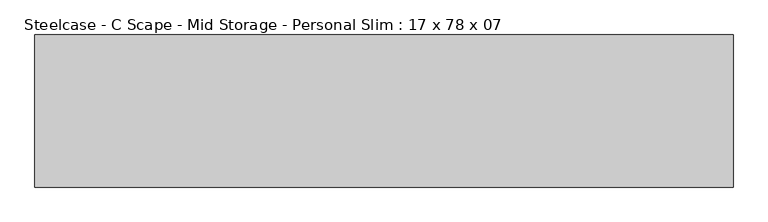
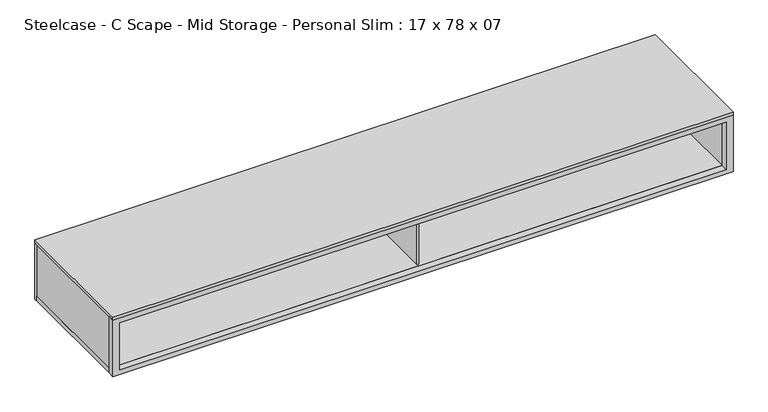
"""IFC4 building model written with IfcOpenShell, lengths in millimetres: furniture geometry, Steelcase - C Scape - Mid Storage - Personal Slim : 17 x 78 x 07."""

import ifcopenshell
import ifcopenshell.guid

model = None  # the IFC model being written
_history = None  # IfcOwnerHistory: only IFC2X3 demands one
_inside = {}  # id of a spatial element -> (the spatial element, [elements in it])
_under = {}  # id of a project, library or spatial element -> (it, [spatial elements below it])
_declared = {}  # id of a project -> (the project, [libraries it declares])
_typed = {}  # id of a type object -> (the type object, [elements of that type])
_made_of = {}  # id of a material, layer set ... -> (it, [elements and type objects made of it])


def new_model(schema):
    """Start an empty IFC model of exactly this schema.

    Asked for "IFC4X3", IfcOpenShell would pick the latest addendum, in which some entities
    have other attributes; the version numbers below select the first issue.
    IFC2X3 requires an IfcOwnerHistory on every rooted entity: one is made here for all.
    """
    global model, _history
    if schema == "IFC4X3":
        model = ifcopenshell.file(schema_version=(4, 3, 0, 0))
    else:
        model = ifcopenshell.file(schema=schema)
    _inside.clear()
    _under.clear()
    _declared.clear()
    _typed.clear()
    _made_of.clear()
    _history = None
    if model.schema == "IFC2X3":
        org = make("IfcOrganization", Name="unknown")
        user = make(
            "IfcPersonAndOrganization",
            ThePerson=make("IfcPerson", FamilyName="unknown"),
            TheOrganization=org,
        )
        app = make(
            "IfcApplication",
            ApplicationDeveloper=org,
            Version="unknown",
            ApplicationFullName="unknown",
            ApplicationIdentifier="unknown",
        )
        _history = make(
            "IfcOwnerHistory",
            OwningUser=user,
            OwningApplication=app,
            ChangeAction="ADDED",
            CreationDate=0,
        )
    return model


def make(cls, **values):
    """One entity of the class cls with the attributes given. An attribute that is None is left unset."""
    return model.create_entity(
        cls, **{name: value for name, value in values.items() if value is not None}
    )


def rooted(cls, **values):
    """An entity with a GlobalId (a new one), such as an element, a storey or a relation."""
    return make(cls, GlobalId=ifcopenshell.guid.new(), OwnerHistory=_history, **values)


def si_unit(unit_type, name, prefix=None):
    """IfcSIUnit, for example si_unit("LENGTHUNIT", "METRE", prefix="MILLI")."""
    return make("IfcSIUnit", UnitType=unit_type, Prefix=prefix, Name=name)


def assignment(units):
    """IfcUnitAssignment: the units of a project."""
    return None if units is None else make("IfcUnitAssignment", Units=units)


def point(xyz):
    """IfcCartesianPoint."""
    return None if xyz is None else make("IfcCartesianPoint", Coordinates=xyz)


def direction(xyz):
    """IfcDirection."""
    return None if xyz is None else make("IfcDirection", DirectionRatios=xyz)


def frame(location, z_axis=None, x_axis=None):
    """IfcAxis2Placement3D, a coordinate frame: its origin and axes. An axis left out is left unset."""
    return make(
        "IfcAxis2Placement3D",
        Location=point(location),
        Axis=direction(z_axis),
        RefDirection=direction(x_axis),
    )


def origin():
    """The frame at (0, 0, 0) with its axes left unset."""
    return frame((0.0, 0.0, 0.0))


def place(relative_to, where):
    """IfcLocalPlacement: puts the frame where relative to a parent placement (None: the world)."""
    return make(
        "IfcLocalPlacement", PlacementRelTo=relative_to, RelativePlacement=where
    )


def context(
    kind, dimensions, precision=None, world=None, true_north=None, identifier=None
):
    """IfcGeometricRepresentationContext, for example the 3D "Model" context."""
    return make(
        "IfcGeometricRepresentationContext",
        ContextIdentifier=identifier,
        ContextType=kind,
        CoordinateSpaceDimension=dimensions,
        Precision=precision,
        WorldCoordinateSystem=world,
        TrueNorth=true_north,
    )


def project(units=None, contexts=None):
    """IfcProject with its units and contexts."""
    return rooted(
        "IfcProject",
        Name="project",
        RepresentationContexts=contexts,
        UnitsInContext=assignment(units),
    )


def spatial(cls, under=None, at=None, **own):
    """A site, building, storey or space (cls), placed at a placement, below another one or the project."""
    s = rooted(cls, ObjectPlacement=at, **own)
    if under is not None:
        _under.setdefault(under.id(), (under, []))[1].append(s)
    return s


def polyline(points):
    """IfcPolyline through the points."""
    return make("IfcPolyline", Points=[point(p) for p in points])


def outline(outer, holes=None, kind="AREA"):
    """IfcArbitraryClosedProfileDef: a profile drawn as a closed curve; with holes, ...WithVoids."""
    if holes is None:
        return make("IfcArbitraryClosedProfileDef", ProfileType=kind, OuterCurve=outer)
    return make(
        "IfcArbitraryProfileDefWithVoids",
        ProfileType=kind,
        OuterCurve=outer,
        InnerCurves=holes,
    )


def extrude(swept, where, along, depth):
    """IfcExtrudedAreaSolid: the profile swept, set in the frame where, extruded along a direction by depth."""
    return make(
        "IfcExtrudedAreaSolid",
        SweptArea=swept,
        Position=where,
        ExtrudedDirection=direction(along),
        Depth=depth,
    )


def shape(context_of_items, identifier, shape_type, items):
    """IfcShapeRepresentation: the items that make up one representation, for example the "Body"."""
    return make(
        "IfcShapeRepresentation",
        ContextOfItems=context_of_items,
        RepresentationIdentifier=identifier,
        RepresentationType=shape_type,
        Items=items,
    )


def source(mapping_origin, context_of_items, identifier, shape_type, items):
    """IfcRepresentationMap: a shape defined once, which mapped items show again and again."""
    return make(
        "IfcRepresentationMap",
        MappingOrigin=mapping_origin,
        MappedRepresentation=shape(context_of_items, identifier, shape_type, items),
    )


def transform(
    local_origin,
    x_axis=None,
    y_axis=None,
    z_axis=None,
    scale=None,
    scale2=None,
    scale3=None,
    uniform=True,
):
    """IfcCartesianTransformationOperator3D, or its non-uniform kind. x_axis, y_axis, z_axis: its Axis1, 2, 3."""
    if uniform:
        return make(
            "IfcCartesianTransformationOperator3D",
            Axis1=direction(x_axis),
            Axis2=direction(y_axis),
            LocalOrigin=point(local_origin),
            Scale=scale,
            Axis3=direction(z_axis),
        )
    return make(
        "IfcCartesianTransformationOperator3DnonUniform",
        Axis1=direction(x_axis),
        Axis2=direction(y_axis),
        LocalOrigin=point(local_origin),
        Scale=scale,
        Axis3=direction(z_axis),
        Scale2=scale2,
        Scale3=scale3,
    )


def mapped(mapping_source, mapping_target):
    """IfcMappedItem: shows the shape of a source again, moved by a transform."""
    return make(
        "IfcMappedItem", MappingSource=mapping_source, MappingTarget=mapping_target
    )


def made_of(thing, what):
    """Note that an element or type object is made of a material, layer set ...; save() writes the relation."""
    if what is not None:
        _made_of.setdefault(what.id(), (what, []))[1].append(thing)
    return thing


def element(
    cls,
    number,
    at=None,
    inside=None,
    cuts=None,
    type_object=None,
    material=None,
    context=None,
    identifier="Body",
    shape_type=None,
    held_by="IfcProductDefinitionShape",
    body=None,
    shapes=None,
    **own,
):
    """One element of the class cls, such as IfcWall. Its Tag is "e" and its number.

    at: its placement. inside: the storey or other place that contains it. cuts: it is an
    opening in that element (IfcRelVoidsElement). A single representation is given by context,
    identifier, shape_type and body (its items); several are given by shapes. held_by: the class
    of the entity that holds the representations. save() writes the other relations.
    """
    e = rooted(cls, Tag="e%d" % number, ObjectPlacement=at, **own)
    if body is not None:
        shapes = [shape(context, identifier, shape_type, body)]
    if shapes is not None:
        e.Representation = make(held_by, Representations=shapes)
    if inside is not None:
        _inside.setdefault(inside.id(), (inside, []))[1].append(e)
    if cuts is not None:
        rooted(
            "IfcRelVoidsElement", RelatingBuildingElement=cuts, RelatedOpeningElement=e
        )
    if type_object is not None:
        _typed.setdefault(type_object.id(), (type_object, []))[1].append(e)
    return made_of(e, material)


def aggregate(whole, parts):
    """IfcRelAggregates: a whole, such as a stair, and the parts it consists of."""
    return rooted("IfcRelAggregates", RelatingObject=whole, RelatedObjects=parts)


def save(model, path):
    """Write the relations noted so far, then the file.

    IfcRelAggregates (storeys below a building ...), IfcRelContainedInSpatialStructure (elements
    in a storey), IfcRelDefinesByType, IfcRelAssociatesMaterial and IfcRelDeclares: one each for
    every whole, place, type object, material and project.
    """
    for whole, parts in _under.values():
        aggregate(whole, parts)
    for where, things in _inside.values():
        rooted(
            "IfcRelContainedInSpatialStructure",
            RelatedElements=things,
            RelatingStructure=where,
        )
    for kind, things in _typed.values():
        rooted("IfcRelDefinesByType", RelatedObjects=things, RelatingType=kind)
    for what, things in _made_of.values():
        rooted("IfcRelAssociatesMaterial", RelatedObjects=things, RelatingMaterial=what)
    for by, libraries in _declared.values():
        rooted("IfcRelDeclares", RelatingContext=by, RelatedDefinitions=libraries)
    model.write(path)


def steelcase_c_scape_mid_storage_personal_slim_17_x_78_x_07_7d5e7138(model_context):
    return source(origin(), model_context, "Body", "SweptSolid", [
        extrude(outline(polyline([(1028.7, 1981.2), (1028.7, 0.0), (838.2, 0.0), (838.2, 1981.2), (1028.7, 1981.2)]), holes=[polyline([(853.4399855, 21.9711633), (1013.46, 21.9711633), (1013.46, 1959.102), (853.4399855, 1959.102), (853.4399855, 21.9711633)])]), frame((0.0, -215.9, 0.0), z_axis=(0.0, 1.0, 0.0), x_axis=(0.0, 0.0, 1.0)), (0.0, 0.0, 1.0), 21.4627892),
        extrude(outline(polyline([(1981.2, 206.3755809), (1981.2, -194.4372108), (0.0, -194.4372108), (0.0, 206.3755809), (1981.2, 206.3755809)])), frame((0.0, 0.0, 838.2), z_axis=(0.0, 0.0, 1.0), x_axis=(1.0, 0.0, 0.0)), (0.0, 0.0, 1.0), 15.2399855),
        extrude(outline(polyline([(1981.2, 215.9), (1981.2, -215.9), (0.0, -215.9), (0.0, 215.9), (1981.2, 215.9)])), frame((0.0, 0.0, 1028.7), z_axis=(0.0, 0.0, 1.0), x_axis=(1.0, 0.0, 0.0)), (0.0, 0.0, 1.0), 10.1599903),
        extrude(outline(polyline([(1981.2, 215.9), (1981.2, 206.3755809), (0.0, 206.3755809), (0.0, 215.9), (1981.2, 215.9)])), frame((0.0, 0.0, 838.2), z_axis=(0.0, 0.0, 1.0), x_axis=(1.0, 0.0, 0.0)), (0.0, 0.0, 1.0), 190.5),
        extrude(outline(polyline([(21.9711633, 206.3755809), (21.9711633, -194.4372108), (0.0, -194.4372108), (0.0, 206.3755809), (21.9711633, 206.3755809)])), frame((0.0, 0.0, 853.4399855), z_axis=(0.0, 0.0, 1.0), x_axis=(1.0, 0.0, 0.0)), (0.0, 0.0, 1.0), 175.2600145),
        extrude(outline(polyline([(1959.102, 206.3755809), (1981.2, 206.3755809), (1981.2, -194.4372108), (1959.102, -194.4372108), (1959.102, 206.3755809)])), frame((0.0, 0.0, 853.4399855), z_axis=(0.0, 0.0, 1.0), x_axis=(1.0, 0.0, 0.0)), (0.0, 0.0, 1.0), 175.2600145),
        extrude(outline(polyline([(987.425, -187.1471039), (987.425, 206.3755809), (993.775, 206.3755809), (993.775, -187.1471039), (987.425, -187.1471039)])), frame((0.0, 0.0, 853.4399855), z_axis=(0.0, 0.0, 1.0), x_axis=(1.0, 0.0, 0.0)), (0.0, 0.0, 1.0), 160.0200145),
    ])


if __name__ == "__main__":
    model = new_model("IFC4")
    model_context = context("Model", 3, world=origin())
    ifc_project = project(units=[si_unit("LENGTHUNIT", "METRE", prefix="MILLI")], contexts=[model_context])
    site = spatial("IfcSite", under=ifc_project)
    building = spatial("IfcBuilding", under=site)
    placement = place(None, origin())
    steelcase_c_scape_mid_storage_personal_slim_17_x_78_x_07_shape = steelcase_c_scape_mid_storage_personal_slim_17_x_78_x_07_7d5e7138(model_context)
    element("IfcFurniture", 1, ObjectType="Steelcase - C Scape - Mid Storage - Personal Slim : 17 x 78 x 07", at=placement, inside=building, context=model_context, shape_type="MappedRepresentation", body=[
        mapped(steelcase_c_scape_mid_storage_personal_slim_17_x_78_x_07_shape, transform((0.0, 0.0, 0.0), x_axis=(1.0, 0.0, 0.0), y_axis=(0.0, 1.0, 0.0), z_axis=(0.0, 0.0, 1.0))),
    ])
    save(model, "model.ifc")
